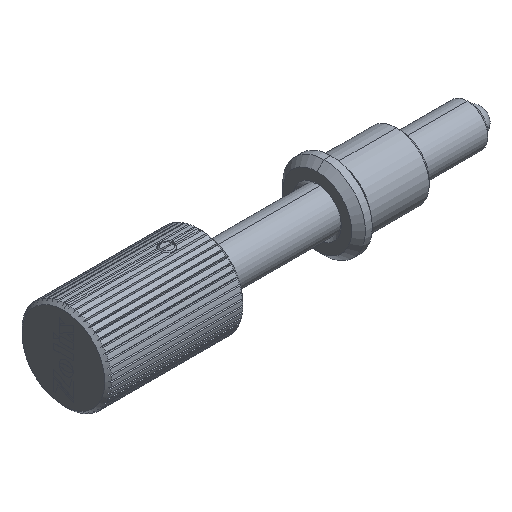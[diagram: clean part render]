
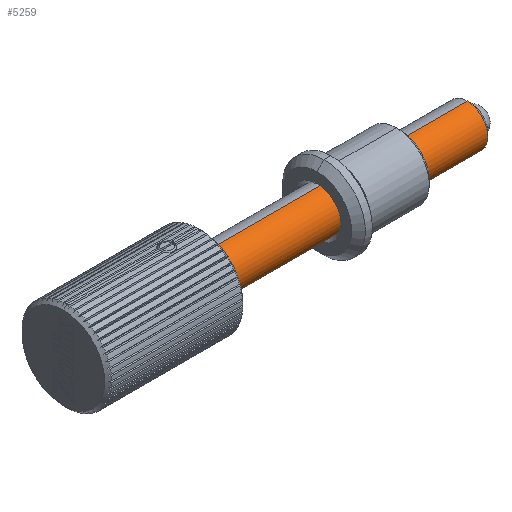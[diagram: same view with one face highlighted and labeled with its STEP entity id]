
A CAD part, isometric view. The second image highlights one B-rep face of the part: STEP entity #5259.
In plain terms, the highlighted cylindrical face has radius 3 mm (diameter 6 mm), a partial arc.
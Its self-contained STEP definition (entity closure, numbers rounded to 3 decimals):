
#228 = DIRECTION ( 'NONE',  ( -1., 0., 0. ) ) ;
#889 = CIRCLE ( 'NONE', #3998, 3. ) ;
#934 = ORIENTED_EDGE ( 'NONE', *, *, #8020, .T. ) ;
#1091 = VERTEX_POINT ( 'NONE', #8717 ) ;
#1202 = VERTEX_POINT ( 'NONE', #9508 ) ;
#1677 = DIRECTION ( 'NONE',  ( -1., 0., 0. ) ) ;
#2096 = DIRECTION ( 'NONE',  ( -1., 0., 0. ) ) ;
#2100 = ORIENTED_EDGE ( 'NONE', *, *, #8395, .T. ) ;
#2284 = VECTOR ( 'NONE', #228, 1000. ) ;
#2623 = CARTESIAN_POINT ( 'NONE',  ( -26.795, 0., -3. ) ) ;
#2722 = VERTEX_POINT ( 'NONE', #7903 ) ;
#2855 = DIRECTION ( 'NONE',  ( 0., 0., 1. ) ) ;
#3412 = DIRECTION ( 'NONE',  ( 0., 0., -1. ) ) ;
#3995 = LINE ( 'NONE', #8710, #8770 ) ;
#3998 = AXIS2_PLACEMENT_3D ( 'NONE', #7678, #1677, #5527 ) ;
#4020 = ORIENTED_EDGE ( 'NONE', *, *, #5032, .F. ) ;
#4450 = EDGE_CURVE ( 'NONE', #5625, #1202, #889, .T. ) ;
#4495 = AXIS2_PLACEMENT_3D ( 'NONE', #9560, #2096, #2855 ) ;
#4876 = CARTESIAN_POINT ( 'NONE',  ( 21.736, 0., -3. ) ) ;
#4905 = CIRCLE ( 'NONE', #8213, 3. ) ;
#5032 = EDGE_CURVE ( 'NONE', #5625, #1091, #8113, .T. ) ;
#5259 = ADVANCED_FACE ( 'NONE', ( #7640 ), #6023, .T. ) ;
#5504 = DIRECTION ( 'NONE',  ( 1., 0., 0. ) ) ;
#5527 = DIRECTION ( 'NONE',  ( 0., 0., 1. ) ) ;
#5625 = VERTEX_POINT ( 'NONE', #4876 ) ;
#6023 = CYLINDRICAL_SURFACE ( 'NONE', #4495, 3. ) ;
#7218 = DIRECTION ( 'NONE',  ( -1., 0., 0. ) ) ;
#7640 = FACE_OUTER_BOUND ( 'NONE', #9334, .T. ) ;
#7678 = CARTESIAN_POINT ( 'NONE',  ( 21.736, 0., 0. ) ) ;
#7903 = CARTESIAN_POINT ( 'NONE',  ( -24.264, 0., 3. ) ) ;
#8020 = EDGE_CURVE ( 'NONE', #1202, #2722, #3995, .T. ) ;
#8113 = LINE ( 'NONE', #2623, #2284 ) ;
#8213 = AXIS2_PLACEMENT_3D ( 'NONE', #8492, #5504, #3412 ) ;
#8395 = EDGE_CURVE ( 'NONE', #2722, #1091, #4905, .T. ) ;
#8402 = ORIENTED_EDGE ( 'NONE', *, *, #4450, .T. ) ;
#8492 = CARTESIAN_POINT ( 'NONE',  ( -24.264, 0., 0. ) ) ;
#8710 = CARTESIAN_POINT ( 'NONE',  ( -26.795, 0., 3. ) ) ;
#8717 = CARTESIAN_POINT ( 'NONE',  ( -24.264, 0., -3. ) ) ;
#8770 = VECTOR ( 'NONE', #7218, 1000. ) ;
#9334 = EDGE_LOOP ( 'NONE', ( #4020, #8402, #934, #2100 ) ) ;
#9508 = CARTESIAN_POINT ( 'NONE',  ( 21.736, 0., 3. ) ) ;
#9560 = CARTESIAN_POINT ( 'NONE',  ( -26.795, 0., 0. ) ) ;
